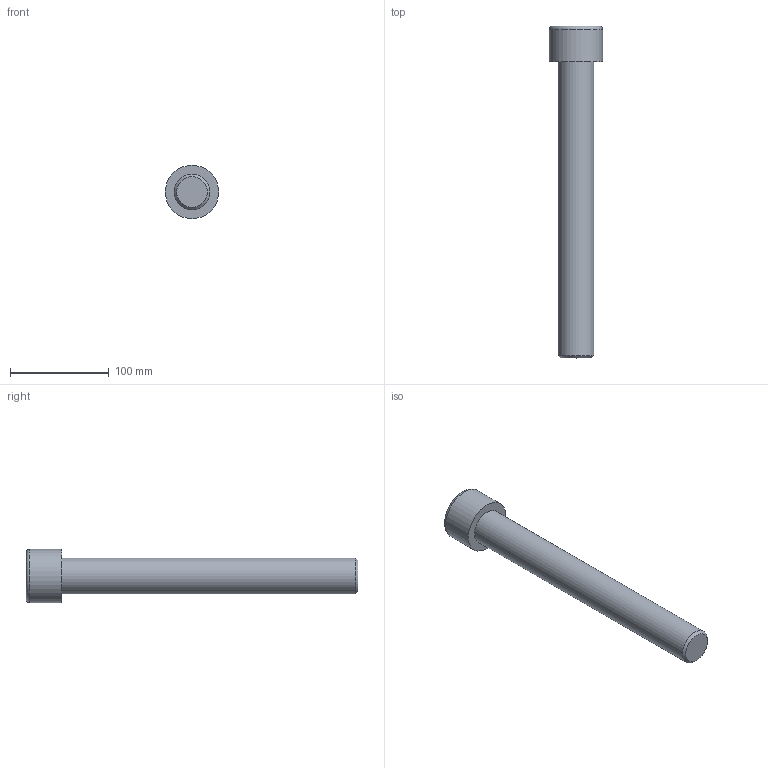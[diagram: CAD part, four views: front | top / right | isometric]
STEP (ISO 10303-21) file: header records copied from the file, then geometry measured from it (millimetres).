
FILE_DESCRIPTION(/* description */ (''),/* implementation_level */ '2;1');
FILE_NAME(/* name */ 'C:\Users\D\Documents\Inventor\各種小物\JIS\JIS B 1176 六角穴付きボルト\M36x300.stp',/* time_stamp */ '2022-05-09T19:03:50+09:00',/* author */ ('D'),/* organization */ (''),/* preprocessor_version */ 'ST-DEVELOPER v18',/* originating_system */ 'Autodesk Inventor 2020',/* authorisation */ '');
FILE_SCHEMA (('AUTOMOTIVE_DESIGN { 1 0 10303 214 3 1 1 }'));
Length unit declared in the file: millimetre
Products named in the file (1): M1.6x2.5
Bounding box: 54 x 336 x 54 mm (x, y, z)
Volume: 372806.2 mm3; surface area: 46127.7 mm2
Topology: 1 solids, 1 shells, 14 faces, 33 edges, 22 vertices
Faces by surface type: plane 9, cone 2, cylinder 2, torus 1
Full cylindrical faces by diameter (mm): 36 x1, 54 x1
Entity records: 435 total; most frequent: CARTESIAN_POINT 83, ORIENTED_EDGE 64, DIRECTION 64, EDGE_CURVE 32, AXIS2_PLACEMENT_3D 24, VERTEX_POINT 22, EDGE_LOOP 16, LINE 16
